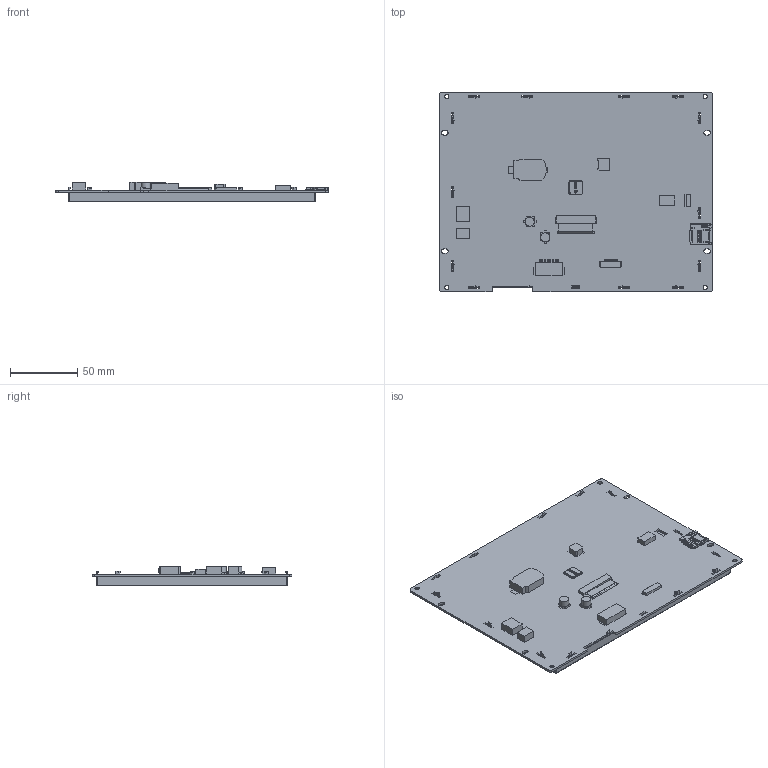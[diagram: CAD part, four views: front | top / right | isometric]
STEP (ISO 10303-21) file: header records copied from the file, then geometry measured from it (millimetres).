
FILE_DESCRIPTION(/* description */ (''),/* implementation_level */ '2;1');
FILE_NAME(/* name */ '',/* time_stamp */ '2021-08-05T11:01:33+08:00',/* author */ (''),/* organization */ (''),/* preprocessor_version */ 'ST-DEVELOPER v11',/* originating_system */ 'SIEMENS PLM Software NX 7.5',/* authorisation */ '');
FILE_SCHEMA (('AP203_CONFIGURATION_CONTROLLED_3D_DESIGN_OF_MECHANICAL_PARTS_AND_ASSEMBLIES_MIM_LF'));
Products named in the file (1): SDWb080T84N
Bounding box: 203.02 x 148.8 x 14.81 mm (x, y, z)
Volume: 176634.6 mm3; surface area: 140519 mm2
Topology: 20 solids, 20 shells, 2501 faces, 7340 edges, 5002 vertices
Faces by surface type: plane 2024, cylinder 469, bspline 7, cone 1
Full cylindrical faces by diameter (mm): 3.2 x4, 6.776 x2
Entity records: 84956 total; most frequent: CARTESIAN_POINT 15215, ORIENTED_EDGE 14354, DIRECTION 13170, EDGE_CURVE 7177, LINE 6332, VECTOR 6332, VERTEX_POINT 4711, AXIS2_PLACEMENT_3D 3419
